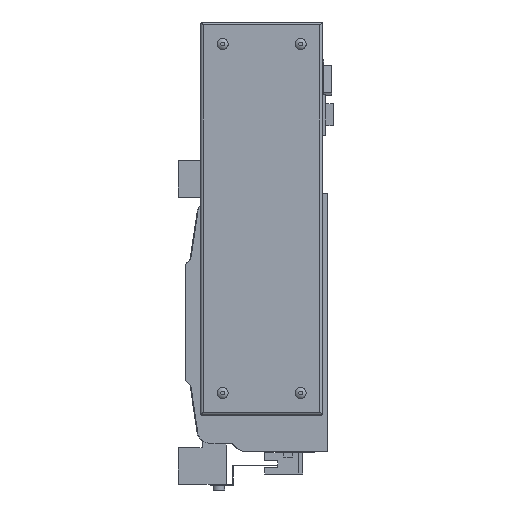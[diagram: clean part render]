
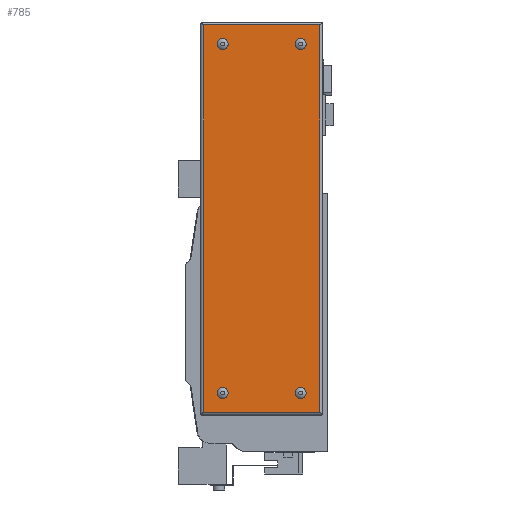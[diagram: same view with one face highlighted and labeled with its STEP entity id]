
A CAD part, left-side view. The second image highlights one B-rep face of the part: STEP entity #785.
In plain terms, the highlighted planar face has unit normal (-1, 0, 0).
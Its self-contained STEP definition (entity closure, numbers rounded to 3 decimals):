
#785 = ADVANCED_FACE( '', ( #2006, #2007, #2008, #2009, #2010 ), #2011, .F. );
#2006 = FACE_BOUND( '', #3849, .T. );
#2007 = FACE_BOUND( '', #3850, .T. );
#2008 = FACE_BOUND( '', #3851, .T. );
#2009 = FACE_BOUND( '', #3852, .T. );
#2010 = FACE_OUTER_BOUND( '', #3853, .T. );
#2011 = PLANE( '', #3854 );
#3849 = EDGE_LOOP( '', ( #5853 ) );
#3850 = EDGE_LOOP( '', ( #5854 ) );
#3851 = EDGE_LOOP( '', ( #5855 ) );
#3852 = EDGE_LOOP( '', ( #5856 ) );
#3853 = EDGE_LOOP( '', ( #5857, #5858, #5859, #5860 ) );
#3854 = AXIS2_PLACEMENT_3D( '', #5861, #5862, #5863 );
#5853 = ORIENTED_EDGE( '', *, *, #10749, .F. );
#5854 = ORIENTED_EDGE( '', *, *, #10750, .F. );
#5855 = ORIENTED_EDGE( '', *, *, #10751, .F. );
#5856 = ORIENTED_EDGE( '', *, *, #10752, .F. );
#5857 = ORIENTED_EDGE( '', *, *, #10753, .F. );
#5858 = ORIENTED_EDGE( '', *, *, #10754, .F. );
#5859 = ORIENTED_EDGE( '', *, *, #10755, .T. );
#5860 = ORIENTED_EDGE( '', *, *, #10605, .T. );
#5861 = CARTESIAN_POINT( '', ( -66., 0., 0. ) );
#5862 = DIRECTION( '', ( 1., 0., 0. ) );
#5863 = DIRECTION( '', ( 0., 0., -1. ) );
#10605 = EDGE_CURVE( '', #12572, #12570, #12573, .T. );
#10749 = EDGE_CURVE( '', #12838, #12838, #12839, .F. );
#10750 = EDGE_CURVE( '', #12840, #12840, #12841, .F. );
#10751 = EDGE_CURVE( '', #12842, #12842, #12843, .F. );
#10752 = EDGE_CURVE( '', #12844, #12844, #12845, .F. );
#10753 = EDGE_CURVE( '', #12846, #12570, #12847, .T. );
#10754 = EDGE_CURVE( '', #12848, #12846, #12849, .T. );
#10755 = EDGE_CURVE( '', #12848, #12572, #12850, .T. );
#12570 = VERTEX_POINT( '', #15481 );
#12572 = VERTEX_POINT( '', #15483 );
#12573 = LINE( '', #15484, #15485 );
#12838 = VERTEX_POINT( '', #15842 );
#12839 = CIRCLE( '', #15843, 3.7 );
#12840 = VERTEX_POINT( '', #15844 );
#12841 = CIRCLE( '', #15845, 3.7 );
#12842 = VERTEX_POINT( '', #15846 );
#12843 = CIRCLE( '', #15847, 3.7 );
#12844 = VERTEX_POINT( '', #15848 );
#12845 = CIRCLE( '', #15849, 3.7 );
#12846 = VERTEX_POINT( '', #15850 );
#12847 = LINE( '', #15851, #15852 );
#12848 = VERTEX_POINT( '', #15853 );
#12849 = LINE( '', #15854, #15855 );
#12850 = LINE( '', #15856, #15857 );
#15481 = CARTESIAN_POINT( '', ( -66., 5.5, -61. ) );
#15483 = CARTESIAN_POINT( '', ( -66., 84.5, -61. ) );
#15484 = CARTESIAN_POINT( '', ( -66., 267., -61. ) );
#15485 = VECTOR( '', #19390, 1000. );
#15842 = CARTESIAN_POINT( '', ( -66., 18.5, 185.3 ) );
#15843 = AXIS2_PLACEMENT_3D( '', #19582, #19583, #19584 );
#15844 = CARTESIAN_POINT( '', ( -66., 18.5, -51.7 ) );
#15845 = AXIS2_PLACEMENT_3D( '', #19585, #19586, #19587 );
#15846 = CARTESIAN_POINT( '', ( -66., 71.5, 185.3 ) );
#15847 = AXIS2_PLACEMENT_3D( '', #19588, #19589, #19590 );
#15848 = CARTESIAN_POINT( '', ( -66., 71.5, -51.7 ) );
#15849 = AXIS2_PLACEMENT_3D( '', #19591, #19592, #19593 );
#15850 = CARTESIAN_POINT( '', ( -66., 5.5, 202. ) );
#15851 = CARTESIAN_POINT( '', ( -66., 5.5, 267. ) );
#15852 = VECTOR( '', #19594, 1000. );
#15853 = CARTESIAN_POINT( '', ( -66., 84.5, 202. ) );
#15854 = CARTESIAN_POINT( '', ( -66., 267., 202. ) );
#15855 = VECTOR( '', #19595, 1000. );
#15856 = CARTESIAN_POINT( '', ( -66., 84.5, 267. ) );
#15857 = VECTOR( '', #19596, 1000. );
#19390 = DIRECTION( '', ( 0., -1., 0. ) );
#19582 = CARTESIAN_POINT( '', ( -66., 18.5, 189. ) );
#19583 = DIRECTION( '', ( 1., 0., 0. ) );
#19584 = DIRECTION( '', ( 0., 0., -1. ) );
#19585 = CARTESIAN_POINT( '', ( -66., 18.5, -48. ) );
#19586 = DIRECTION( '', ( 1., 0., 0. ) );
#19587 = DIRECTION( '', ( 0., 0., -1. ) );
#19588 = CARTESIAN_POINT( '', ( -66., 71.5, 189. ) );
#19589 = DIRECTION( '', ( 1., 0., 0. ) );
#19590 = DIRECTION( '', ( 0., 0., -1. ) );
#19591 = CARTESIAN_POINT( '', ( -66., 71.5, -48. ) );
#19592 = DIRECTION( '', ( 1., 0., 0. ) );
#19593 = DIRECTION( '', ( 0., 0., -1. ) );
#19594 = DIRECTION( '', ( 0., 0., -1. ) );
#19595 = DIRECTION( '', ( 0., -1., 0. ) );
#19596 = DIRECTION( '', ( 0., 0., -1. ) );
